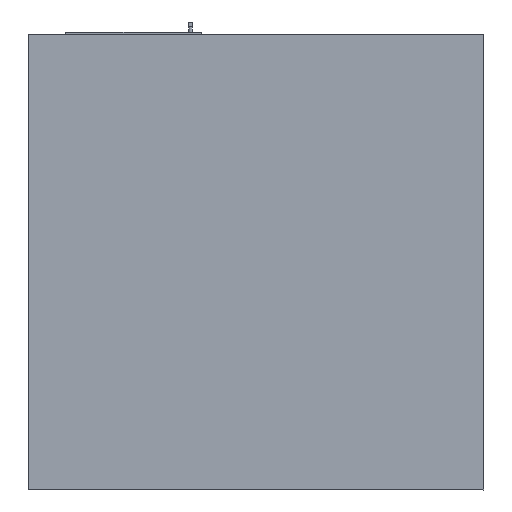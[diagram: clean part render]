
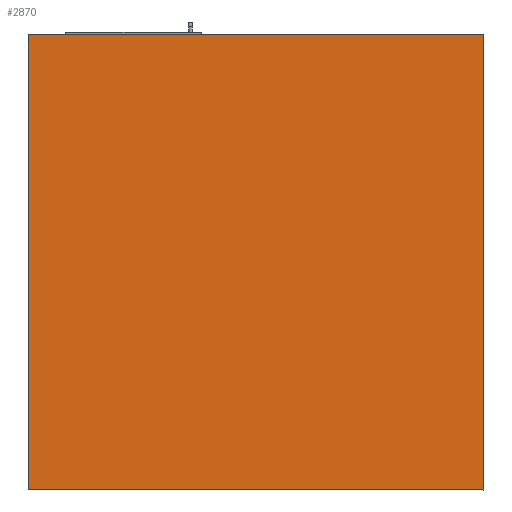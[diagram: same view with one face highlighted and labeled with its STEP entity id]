
A CAD part, front view. The second image highlights one B-rep face of the part: STEP entity #2870.
In plain terms, the highlighted planar face has unit normal (0, -1, 0).
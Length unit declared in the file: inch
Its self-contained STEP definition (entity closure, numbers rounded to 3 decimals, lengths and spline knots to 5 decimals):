
#136=FACE_OUTER_BOUND('',#277,.T.);
#277=EDGE_LOOP('',(#2324,#2325,#2326,#2327));
#352=LINE('',#3832,#733);
#654=LINE('',#4430,#1035);
#656=LINE('',#4434,#1037);
#657=LINE('',#4436,#1038);
#733=VECTOR('',#3132,0.3937);
#1035=VECTOR('',#3588,0.3937);
#1037=VECTOR('',#3592,0.3937);
#1038=VECTOR('',#3595,0.3937);
#1112=VERTEX_POINT('',#3829);
#1113=VERTEX_POINT('',#3831);
#1332=VERTEX_POINT('',#4428);
#1333=VERTEX_POINT('',#4432);
#1386=EDGE_CURVE('',#1112,#1113,#352,.T.);
#1688=EDGE_CURVE('',#1332,#1112,#654,.T.);
#1690=EDGE_CURVE('',#1333,#1113,#656,.T.);
#1691=EDGE_CURVE('',#1332,#1333,#657,.T.);
#2324=ORIENTED_EDGE('',*,*,#1691,.T.);
#2325=ORIENTED_EDGE('',*,*,#1690,.T.);
#2326=ORIENTED_EDGE('',*,*,#1386,.F.);
#2327=ORIENTED_EDGE('',*,*,#1688,.F.);
#2663=PLANE('',#3029);
#2870=ADVANCED_FACE('',(#136),#2663,.T.);
#3029=AXIS2_PLACEMENT_3D('',#4435,#3593,#3594);
#3132=DIRECTION('',(1.,0.,0.));
#3588=DIRECTION('',(0.,0.,1.));
#3592=DIRECTION('',(0.,0.,1.));
#3593=DIRECTION('center_axis',(0.,-1.,0.));
#3594=DIRECTION('ref_axis',(1.,0.,0.));
#3595=DIRECTION('',(1.,0.,0.));
#3829=CARTESIAN_POINT('',(-88.99891,275.0909,79.46144));
#3831=CARTESIAN_POINT('',(31.00109,275.0997,79.45664));
#3832=CARTESIAN_POINT('',(-88.99891,275.0909,79.46144));
#4428=CARTESIAN_POINT('',(-89.0037,275.09966,-40.53856));
#4430=CARTESIAN_POINT('',(-89.0037,275.09966,-40.53856));
#4432=CARTESIAN_POINT('',(30.9963,275.10846,-40.54336));
#4434=CARTESIAN_POINT('',(30.9963,275.10846,-40.54336));
#4435=CARTESIAN_POINT('Origin',(-89.0037,275.09966,-40.53856));
#4436=CARTESIAN_POINT('',(-89.0037,275.09966,-40.53856));
